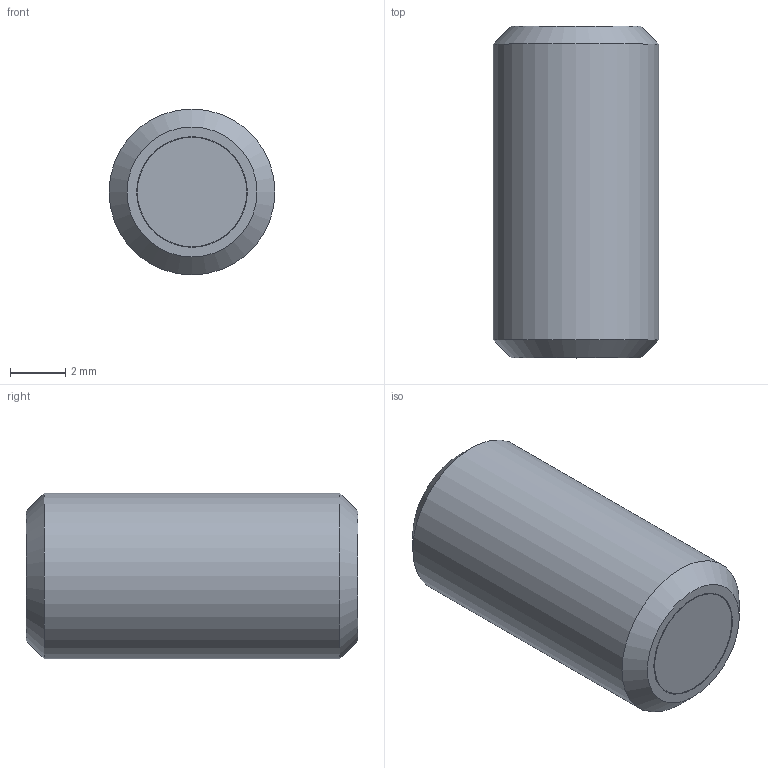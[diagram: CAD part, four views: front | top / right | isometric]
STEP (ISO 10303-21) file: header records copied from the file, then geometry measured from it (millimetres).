
FILE_DESCRIPTION(/* description */ ('STEP AP214'),/* implementation_level */ '2;1');
FILE_NAME(/* name */ 'Grub screw with retaining magnet GN 913.6-M6-12-ND',/* time_stamp */ '2023-09-28T07:59:45+02:00',/* author */ ('License CC BY-ND 4.0'),/* organization */ ('CADENAS'),/* preprocessor_version */ 'ST-DEVELOPER v19.3',/* originating_system */ 'PARTsolutions',/* authorisation */ ' ');
FILE_SCHEMA (('AUTOMOTIVE_DESIGN {1 0 10303 214 3 1 1}'));
Length unit declared in the file: millimetre
Products named in the file (1): Grub screw with retaining magnet GN 913.6-M6-12-ND
Bounding box: 6 x 12 x 6 mm (x, y, z)
Volume: 307.5 mm3; surface area: 298.7 mm2
Topology: 1 solids, 1 shells, 22 faces, 46 edges, 28 vertices
Faces by surface type: plane 16, cone 3, cylinder 3
Full cylindrical faces by diameter (mm): 3.96 x1, 4 x1, 6 x1
Entity records: 566 total; most frequent: DIRECTION 98, CARTESIAN_POINT 88, ORIENTED_EDGE 76, EDGE_CURVE 38, AXIS2_PLACEMENT_3D 37, FACE_BOUND 31, EDGE_LOOP 30, VERTEX_POINT 27
